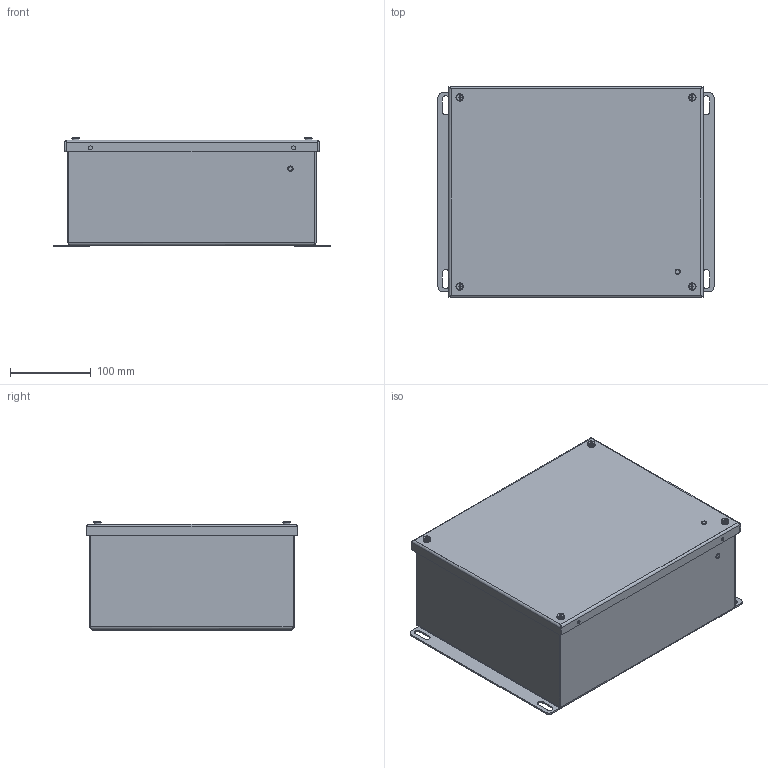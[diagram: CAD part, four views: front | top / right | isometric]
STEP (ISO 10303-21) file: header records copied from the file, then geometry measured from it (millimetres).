
FILE_DESCRIPTION((''),'2;1');
FILE_NAME('MODEL-337_ASM','2025-09-16T08:36:32',('richards'),('SAGINAW CONTROL & ENGINEERING'),'CREO PARAMETRIC BY PTC INC, 2021284','CREO PARAMETRIC BY PTC INC, 2021284','');
FILE_SCHEMA(('AUTOMOTIVE_DESIGN { 1 0 10303 214 1 1 1 1 }'));
Length unit declared in the file: inch
Products named in the file (13): MODEL-337-BDY; MODEL-337-DR; 100063; 100009; 102179; 122255; MODEL-337-GSKT; 100983; 102534; CH-ELJ_SUBPANEL; 102479; CH-ELJ_SUBPANEL-SUBASSEMBLY_ASM; MODEL-337_ASM
Assembly tree (26 placements, depth 3):
  MODEL-337_ASM
    MODEL-337-BDY
    MODEL-337-DR
    100063  x2
    100009  x4
    102179  x2
    122255
    MODEL-337-GSKT
    100983  x4
    102534  x4
    CH-ELJ_SUBPANEL-SUBASSEMBLY_ASM
      CH-ELJ_SUBPANEL
      102479  x4
Bounding box: 342.9 x 261.94 x 136.16 mm (x, y, z)
Volume: 673999.5 mm3; surface area: 848976.3 mm2
Topology: 28 solids, 28 shells, 1034 faces, 2560 edges, 1460 vertices
Faces by surface type: plane 394, cylinder 312, bspline 180, torus 96, cone 44, sphere 8
Entity records: 27207 total; most frequent: CARTESIAN_POINT 8756, DIRECTION 2579, ORIENTED_EDGE 2500, EDGE_CURVE 1250, PRESENTATION_STYLE_ASSIGNMENT 1164, STYLED_ITEM 1164, CURVE_STYLE 1086, AXIS2_PLACEMENT_3D 950
